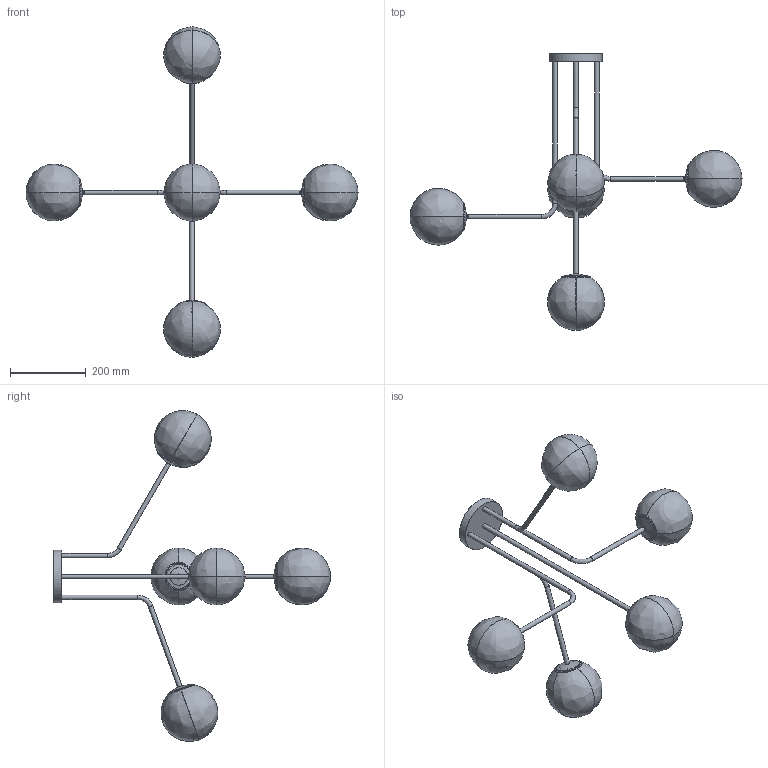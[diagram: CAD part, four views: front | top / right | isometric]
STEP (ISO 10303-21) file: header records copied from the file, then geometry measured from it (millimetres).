
FILE_DESCRIPTION(('FreeCAD Model'),'2;1');
FILE_NAME('Open CASCADE Shape Model','2022-12-21T10:44:34',('Author'),( ''),'Open CASCADE STEP processor 7.6','FreeCAD','Unknown');
FILE_SCHEMA(('AUTOMOTIVE_DESIGN { 1 0 10303 214 1 1 1 1 }'));
Length unit declared in the file: millimetre
Products named in the file (38): Unnamed; PARMA_C3946280_3D; PARMA_C3946280_3D001; PARMA_C3946280_3D002; PARMA_C3946280_3D003; PARMA_C3946280_3D004; PARMA_C3946280_3D005; PARMA_C3946280_3D006; PARMA_C3946280_3D007; PARMA_C3946280_3D008; PARMA_C3946280_3D009; PARMA_C3946280_3D010; PARMA_C3946280_3D011; PARMA_C3946280_3D012; PARMA_C3946280_3D013; PARMA_C3946280_3D014; PARMA_C3946280_3D015; PARMA_C3946280_3D016; PARMA_C3946280_3D017; PARMA_C3946280_3D018; PARMA_C3946280_3D019; PARMA_C3946280_3D020; PARMA_C3946280_3D021; PARMA_C3946280_3D022; PARMA_C3946280_3D023; PARMA_C3946280_3D024; PARMA_C3946280_3D025; PARMA_C3946280_3D026; PARMA_C3946280_3D027; PARMA_C3946280_3D028; PARMA_C3946280_3D029; PARMA_C3946280_3D030; PARMA_C3946280_3D031; PARMA_C3946280_3D032; PARMA_C3946280_3D033; PARMA_C3946280_3D034; PARMA_C3946280_3D035; PARMA_C3946280_3D036
Assembly tree (37 placements, depth 2):
  Unnamed
    PARMA_C3946280_3D
    PARMA_C3946280_3D001
    PARMA_C3946280_3D002
    PARMA_C3946280_3D003
    PARMA_C3946280_3D004
    PARMA_C3946280_3D005
    PARMA_C3946280_3D006
    PARMA_C3946280_3D007
    PARMA_C3946280_3D008
    PARMA_C3946280_3D009
    PARMA_C3946280_3D010
    PARMA_C3946280_3D011
    PARMA_C3946280_3D012
    PARMA_C3946280_3D013
    PARMA_C3946280_3D014
    PARMA_C3946280_3D015
    PARMA_C3946280_3D016
    PARMA_C3946280_3D017
    PARMA_C3946280_3D018
    PARMA_C3946280_3D019
    PARMA_C3946280_3D020
    PARMA_C3946280_3D021
    PARMA_C3946280_3D022
    PARMA_C3946280_3D023
    PARMA_C3946280_3D024
    PARMA_C3946280_3D025
    PARMA_C3946280_3D026
    PARMA_C3946280_3D027
    PARMA_C3946280_3D028
    PARMA_C3946280_3D029
    PARMA_C3946280_3D030
    PARMA_C3946280_3D031
    PARMA_C3946280_3D032
    PARMA_C3946280_3D033
    PARMA_C3946280_3D034
    PARMA_C3946280_3D035
    PARMA_C3946280_3D036
Bounding box: 877.25 x 731.62 x 874.21 mm (x, y, z)
Volume: 488776.1 mm3; surface area: 874014.8 mm2
Topology: 31 solids, 56 shells, 593 faces, 1395 edges, 850 vertices
Faces by surface type: bspline 593
Entity records: 57003 total; most frequent: CARTESIAN_POINT 35512, ORIENTED_EDGE 2565, PCURVE 2565, DEFINITIONAL_REPRESENTATION 2565, DIRECTION 1977, LINE 1901, VECTOR 1901, EDGE_CURVE 1345
